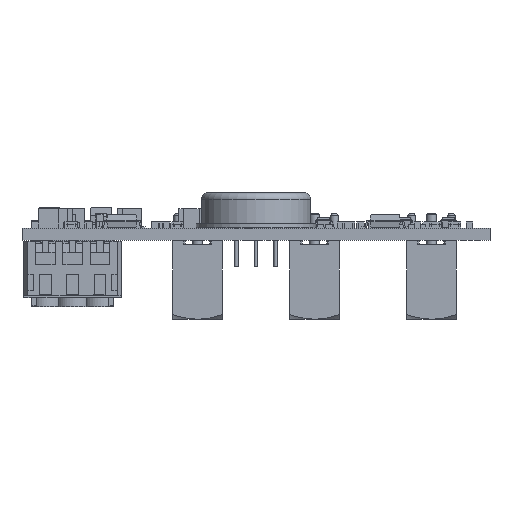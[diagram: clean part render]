
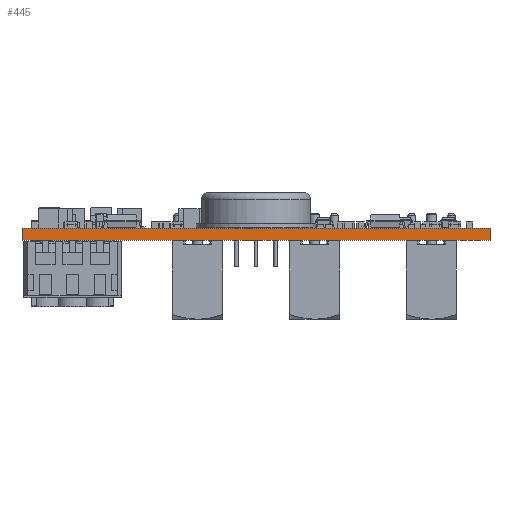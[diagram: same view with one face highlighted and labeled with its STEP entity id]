
A CAD part, left-side view. The second image highlights one B-rep face of the part: STEP entity #445.
In plain terms, the highlighted planar face has unit normal (-1, 0, 0).
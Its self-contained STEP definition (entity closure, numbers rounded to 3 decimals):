
#445 = ADVANCED_FACE('',(#446),#480,.T.);
#446 = FACE_BOUND('',#447,.T.);
#447 = EDGE_LOOP('',(#448,#458,#466,#474));
#448 = ORIENTED_EDGE('',*,*,#449,.T.);
#449 = EDGE_CURVE('',#450,#452,#454,.T.);
#450 = VERTEX_POINT('',#451);
#451 = CARTESIAN_POINT('',(0.,-60.,0.));
#452 = VERTEX_POINT('',#453);
#453 = CARTESIAN_POINT('',(0.,-60.,1.556));
#454 = LINE('',#455,#456);
#455 = CARTESIAN_POINT('',(0.,-60.,0.));
#456 = VECTOR('',#457,1.);
#457 = DIRECTION('',(0.,0.,1.));
#458 = ORIENTED_EDGE('',*,*,#459,.T.);
#459 = EDGE_CURVE('',#452,#460,#462,.T.);
#460 = VERTEX_POINT('',#461);
#461 = CARTESIAN_POINT('',(0.,0.,1.556));
#462 = LINE('',#463,#464);
#463 = CARTESIAN_POINT('',(0.,-60.,1.556));
#464 = VECTOR('',#465,1.);
#465 = DIRECTION('',(0.,1.,0.));
#466 = ORIENTED_EDGE('',*,*,#467,.F.);
#467 = EDGE_CURVE('',#468,#460,#470,.T.);
#468 = VERTEX_POINT('',#469);
#469 = CARTESIAN_POINT('',(0.,0.,0.));
#470 = LINE('',#471,#472);
#471 = CARTESIAN_POINT('',(0.,0.,0.));
#472 = VECTOR('',#473,1.);
#473 = DIRECTION('',(0.,0.,1.));
#474 = ORIENTED_EDGE('',*,*,#475,.F.);
#475 = EDGE_CURVE('',#450,#468,#476,.T.);
#476 = LINE('',#477,#478);
#477 = CARTESIAN_POINT('',(0.,-60.,0.));
#478 = VECTOR('',#479,1.);
#479 = DIRECTION('',(0.,1.,0.));
#480 = PLANE('',#481);
#481 = AXIS2_PLACEMENT_3D('',#482,#483,#484);
#482 = CARTESIAN_POINT('',(0.,-60.,0.));
#483 = DIRECTION('',(-1.,0.,0.));
#484 = DIRECTION('',(0.,1.,0.));
